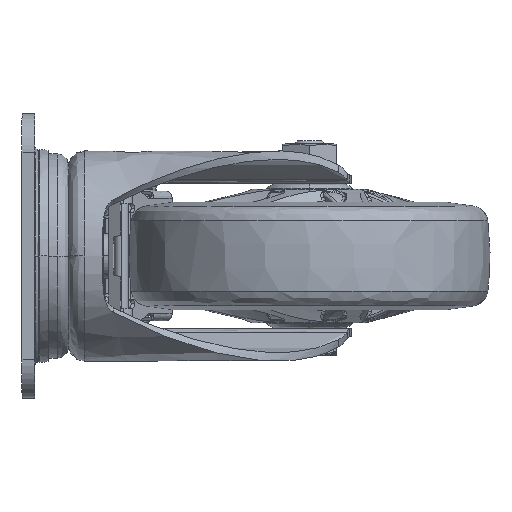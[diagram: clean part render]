
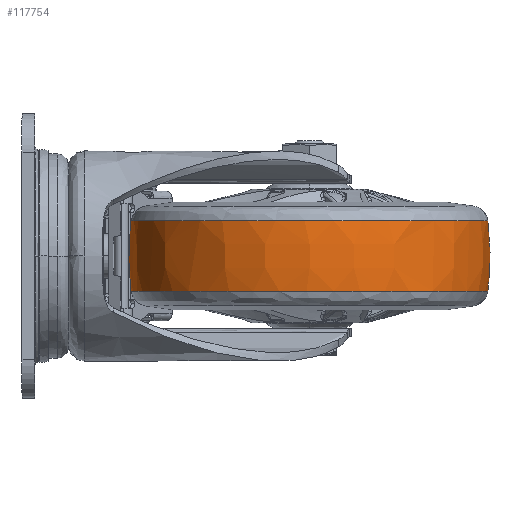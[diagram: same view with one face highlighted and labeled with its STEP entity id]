
A CAD part, left-side view. The second image highlights one B-rep face of the part: STEP entity #117754.
In plain terms, the highlighted free-form (B-spline) face has degree [3, 3] with [4, 10] control points.
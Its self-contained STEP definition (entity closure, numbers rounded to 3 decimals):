
#1532 = CARTESIAN_POINT ( 'NONE',  ( -84.013, -26.518, -4.148 ) ) ;
#2103 = EDGE_CURVE ( 'NONE', #115468, #71499, #66862, .T. ) ;
#2798 = CARTESIAN_POINT ( 'NONE',  ( 43.501, -27.544, 12.38 ) ) ;
#5197 = EDGE_CURVE ( 'NONE', #122172, #33578, #104310, .T. ) ;
#8036 = CARTESIAN_POINT ( 'NONE',  ( 43.501, -27.544, 12.38 ) ) ;
#10658 = CARTESIAN_POINT ( 'NONE',  ( 43.93, -26.516, 4.148 ) ) ;
#11152 =( BOUNDED_SURFACE ( )  B_SPLINE_SURFACE ( 3, 3, ( 
 ( #86732, #33686, #65147, #12028, #85374, #63757, #116774, #73540, #76304, #33002 ),
 ( #95126, #21082, #11355, #42093, #127980, #43478, #84693, #10658, #53290, #74916 ),
 ( #118865, #53996, #96529, #22481, #54683, #1532, #131384, #109069, #67185, #34359 ),
 ( #77669, #110436, #111808, #120914, #68568, #119550, #58100, #26626, #13390, #58792 ) ),
 .UNSPECIFIED., .F., .F., .F. ) 
 B_SPLINE_SURFACE_WITH_KNOTS ( ( 4, 4 ),
 ( 4, 3, 3, 4 ),
 ( 0., 1. ),
 ( -0.01, 0., 1., 1.01 ),
 .UNSPECIFIED. ) 
 GEOMETRIC_REPRESENTATION_ITEM ( )  RATIONAL_B_SPLINE_SURFACE ( (
 ( 1., 1., 1., 1., 0.333, 0.333, 1., 1., 1., 1.),
 ( 0.995, 0.995, 0.995, 0.995, 0.332, 0.332, 0.995, 0.995, 0.995, 0.995),
 ( 0.995, 0.995, 0.995, 0.995, 0.332, 0.332, 0.995, 0.995, 0.995, 0.995),
 ( 1., 1., 1., 1., 0.333, 0.333, 1., 1., 1., 1.) ) ) 
 REPRESENTATION_ITEM ( '' )  SURFACE ( )  );
#11355 = CARTESIAN_POINT ( 'NONE',  ( 43.926, -154.032, 4.148 ) ) ;
#12028 = CARTESIAN_POINT ( 'NONE',  ( 43.5, -153.005, 12.38 ) ) ;
#13390 = CARTESIAN_POINT ( 'NONE',  ( 44.345, -27.544, -12.38 ) ) ;
#14840 = ORIENTED_EDGE ( 'NONE', *, *, #2103, .T. ) ;
#19212 = CARTESIAN_POINT ( 'NONE',  ( 43.501, -153.005, -12.38 ) ) ;
#19959 = CARTESIAN_POINT ( 'NONE',  ( 43.501, -153.005, 12.38 ) ) ;
#21082 = CARTESIAN_POINT ( 'NONE',  ( 44.351, -154.032, 4.148 ) ) ;
#21453 = ORIENTED_EDGE ( 'NONE', *, *, #5197, .F. ) ;
#22481 = CARTESIAN_POINT ( 'NONE',  ( 43.5, -154.032, -4.148 ) ) ;
#26626 = CARTESIAN_POINT ( 'NONE',  ( 43.923, -27.544, -12.38 ) ) ;
#33002 = CARTESIAN_POINT ( 'NONE',  ( 44.768, -27.544, 12.38 ) ) ;
#33578 = VERTEX_POINT ( 'NONE', #94157 ) ;
#33686 = CARTESIAN_POINT ( 'NONE',  ( 44.337, -153.005, 12.38 ) ) ;
#34359 = CARTESIAN_POINT ( 'NONE',  ( 44.788, -26.516, -4.148 ) ) ;
#38286 = EDGE_CURVE ( 'NONE', #115468, #122172, #106684, .T. ) ;
#41837 = CARTESIAN_POINT ( 'NONE',  ( 43.501, -153.005, 12.38 ) ) ;
#42093 = CARTESIAN_POINT ( 'NONE',  ( 43.5, -154.032, 4.148 ) ) ;
#43478 = CARTESIAN_POINT ( 'NONE',  ( -84.013, -26.518, 4.148 ) ) ;
#45202 =( BOUNDED_CURVE ( )  B_SPLINE_CURVE ( 3, ( #105734, #114851, #52705, #8036 ),
 .UNSPECIFIED., .F., .F. ) 
 B_SPLINE_CURVE_WITH_KNOTS ( ( 4, 4 ),
 ( 0., 1. ),
 .UNSPECIFIED. ) 
 CURVE ( )  GEOMETRIC_REPRESENTATION_ITEM ( )  RATIONAL_B_SPLINE_CURVE ( ( 1., 0.995, 0.995, 1. ) ) 
 REPRESENTATION_ITEM ( '' )  );
#51642 = CARTESIAN_POINT ( 'NONE',  ( 43.501, -153.005, 12.38 ) ) ;
#52705 = CARTESIAN_POINT ( 'NONE',  ( 43.501, -26.517, 4.148 ) ) ;
#52860 = CARTESIAN_POINT ( 'NONE',  ( 43.501, -154.032, 4.148 ) ) ;
#53290 = CARTESIAN_POINT ( 'NONE',  ( 44.359, -26.516, 4.148 ) ) ;
#53996 = CARTESIAN_POINT ( 'NONE',  ( 44.351, -154.032, -4.148 ) ) ;
#54683 = CARTESIAN_POINT ( 'NONE',  ( -84.013, -154.031, -4.148 ) ) ;
#58100 = CARTESIAN_POINT ( 'NONE',  ( 43.5, -27.544, -12.38 ) ) ;
#58792 = CARTESIAN_POINT ( 'NONE',  ( 44.768, -27.544, -12.38 ) ) ;
#61057 = EDGE_LOOP ( 'NONE', ( #21453, #89497, #14840, #66474 ) ) ;
#63757 = CARTESIAN_POINT ( 'NONE',  ( -81.959, -27.545, 12.38 ) ) ;
#65147 = CARTESIAN_POINT ( 'NONE',  ( 43.919, -153.005, 12.38 ) ) ;
#66474 = ORIENTED_EDGE ( 'NONE', *, *, #136571, .F. ) ;
#66862 =( BOUNDED_CURVE ( )  B_SPLINE_CURVE ( 3, ( #41837, #84423, #51642, #94189, #127025, #127715, #116525, #117218, #106742, #136806 ),
 .UNSPECIFIED., .F., .F. ) 
 B_SPLINE_CURVE_WITH_KNOTS ( ( 4, 3, 3, 4 ),
 ( 0., 0., 1., 1. ),
 .UNSPECIFIED. ) 
 CURVE ( )  GEOMETRIC_REPRESENTATION_ITEM ( )  RATIONAL_B_SPLINE_CURVE ( ( 1., 1., 1., 1., 0.333, 0.333, 1., 1., 1., 1. ) ) 
 REPRESENTATION_ITEM ( '' )  );
#67185 = CARTESIAN_POINT ( 'NONE',  ( 44.359, -26.516, -4.148 ) ) ;
#68568 = CARTESIAN_POINT ( 'NONE',  ( -81.959, -153.004, -12.38 ) ) ;
#71499 = VERTEX_POINT ( 'NONE', #2798 ) ;
#73540 = CARTESIAN_POINT ( 'NONE',  ( 43.923, -27.544, 12.38 ) ) ;
#74916 = CARTESIAN_POINT ( 'NONE',  ( 44.788, -26.516, 4.148 ) ) ;
#76304 = CARTESIAN_POINT ( 'NONE',  ( 44.345, -27.544, 12.38 ) ) ;
#77669 = CARTESIAN_POINT ( 'NONE',  ( 44.755, -153.005, -12.38 ) ) ;
#84423 = CARTESIAN_POINT ( 'NONE',  ( 43.501, -153.005, 12.38 ) ) ;
#84693 = CARTESIAN_POINT ( 'NONE',  ( 43.5, -26.517, 4.148 ) ) ;
#85374 = CARTESIAN_POINT ( 'NONE',  ( -81.959, -153.004, 12.38 ) ) ;
#86732 = CARTESIAN_POINT ( 'NONE',  ( 44.755, -153.005, 12.38 ) ) ;
#89497 = ORIENTED_EDGE ( 'NONE', *, *, #38286, .F. ) ;
#94157 = CARTESIAN_POINT ( 'NONE',  ( 43.501, -27.544, -12.38 ) ) ;
#94189 = CARTESIAN_POINT ( 'NONE',  ( 43.5, -153.005, 12.38 ) ) ;
#95126 = CARTESIAN_POINT ( 'NONE',  ( 44.776, -154.032, 4.148 ) ) ;
#96529 = CARTESIAN_POINT ( 'NONE',  ( 43.926, -154.032, -4.148 ) ) ;
#96739 = CARTESIAN_POINT ( 'NONE',  ( 43.501, -27.544, -12.38 ) ) ;
#103123 = CARTESIAN_POINT ( 'NONE',  ( 43.501, -153.005, -12.38 ) ) ;
#104310 =( BOUNDED_CURVE ( )  B_SPLINE_CURVE ( 3, ( #105116, #106504, #107213, #96739 ),
 .UNSPECIFIED., .F., .F. ) 
 B_SPLINE_CURVE_WITH_KNOTS ( ( 4, 4 ),
 ( 0., 1. ),
 .UNSPECIFIED. ) 
 CURVE ( )  GEOMETRIC_REPRESENTATION_ITEM ( )  RATIONAL_B_SPLINE_CURVE ( ( 1., 0.333, 0.333, 1. ) ) 
 REPRESENTATION_ITEM ( '' )  );
#105116 = CARTESIAN_POINT ( 'NONE',  ( 43.501, -153.005, -12.38 ) ) ;
#105734 = CARTESIAN_POINT ( 'NONE',  ( 43.501, -27.544, -12.38 ) ) ;
#106504 = CARTESIAN_POINT ( 'NONE',  ( -81.96, -153.005, -12.38 ) ) ;
#106684 =( BOUNDED_CURVE ( )  B_SPLINE_CURVE ( 3, ( #137322, #52860, #113633, #103123 ),
 .UNSPECIFIED., .F., .F. ) 
 B_SPLINE_CURVE_WITH_KNOTS ( ( 4, 4 ),
 ( 0., 1. ),
 .UNSPECIFIED. ) 
 CURVE ( )  GEOMETRIC_REPRESENTATION_ITEM ( )  RATIONAL_B_SPLINE_CURVE ( ( 1., 0.995, 0.995, 1. ) ) 
 REPRESENTATION_ITEM ( '' )  );
#106742 = CARTESIAN_POINT ( 'NONE',  ( 43.501, -27.544, 12.38 ) ) ;
#107213 = CARTESIAN_POINT ( 'NONE',  ( -81.96, -27.544, -12.38 ) ) ;
#109069 = CARTESIAN_POINT ( 'NONE',  ( 43.93, -26.516, -4.148 ) ) ;
#110436 = CARTESIAN_POINT ( 'NONE',  ( 44.337, -153.005, -12.38 ) ) ;
#111808 = CARTESIAN_POINT ( 'NONE',  ( 43.919, -153.005, -12.38 ) ) ;
#113633 = CARTESIAN_POINT ( 'NONE',  ( 43.501, -154.032, -4.148 ) ) ;
#114851 = CARTESIAN_POINT ( 'NONE',  ( 43.501, -26.517, -4.148 ) ) ;
#115468 = VERTEX_POINT ( 'NONE', #19959 ) ;
#116525 = CARTESIAN_POINT ( 'NONE',  ( 43.5, -27.544, 12.38 ) ) ;
#116774 = CARTESIAN_POINT ( 'NONE',  ( 43.5, -27.544, 12.38 ) ) ;
#117218 = CARTESIAN_POINT ( 'NONE',  ( 43.501, -27.544, 12.38 ) ) ;
#117754 = ADVANCED_FACE ( 'NONE', ( #126591 ), #11152, .F. ) ;
#118865 = CARTESIAN_POINT ( 'NONE',  ( 44.776, -154.032, -4.148 ) ) ;
#119550 = CARTESIAN_POINT ( 'NONE',  ( -81.959, -27.545, -12.38 ) ) ;
#120914 = CARTESIAN_POINT ( 'NONE',  ( 43.5, -153.005, -12.38 ) ) ;
#122172 = VERTEX_POINT ( 'NONE', #19212 ) ;
#126591 = FACE_OUTER_BOUND ( 'NONE', #61057, .T. ) ;
#127025 = CARTESIAN_POINT ( 'NONE',  ( -81.959, -153.004, 12.38 ) ) ;
#127715 = CARTESIAN_POINT ( 'NONE',  ( -81.959, -27.545, 12.38 ) ) ;
#127980 = CARTESIAN_POINT ( 'NONE',  ( -84.013, -154.031, 4.148 ) ) ;
#131384 = CARTESIAN_POINT ( 'NONE',  ( 43.5, -26.517, -4.148 ) ) ;
#136571 = EDGE_CURVE ( 'NONE', #33578, #71499, #45202, .T. ) ;
#136806 = CARTESIAN_POINT ( 'NONE',  ( 43.501, -27.544, 12.38 ) ) ;
#137322 = CARTESIAN_POINT ( 'NONE',  ( 43.501, -153.005, 12.38 ) ) ;
